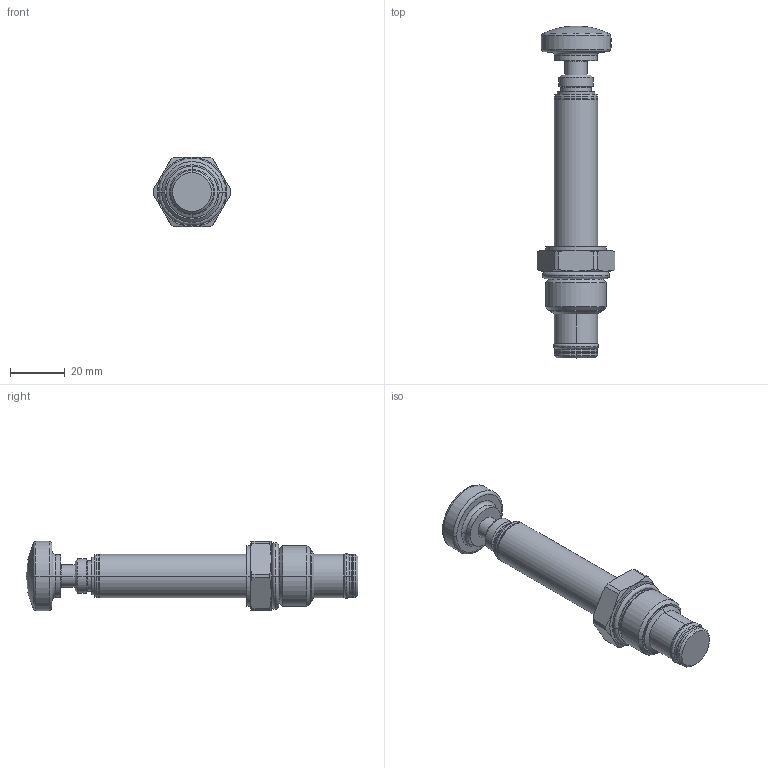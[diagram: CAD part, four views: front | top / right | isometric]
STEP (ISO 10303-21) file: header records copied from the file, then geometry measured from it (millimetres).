
FILE_DESCRIPTION((''),'2;1');
FILE_NAME('5029005_SW0002','2009-03-02T',('JCS'),(''),'PRO/ENGINEER BY PARAMETRIC TECHNOLOGY CORPORATION, 2008010','PRO/ENGINEER BY PARAMETRIC TECHNOLOGY CORPORATION, 2008010','');
FILE_SCHEMA(('CONFIG_CONTROL_DESIGN'));
Length unit declared in the file: inch
Products named in the file (1): 5029005_SW0002
Bounding box: 28.57 x 121.72 x 25.4 mm (x, y, z)
Volume: 30564.1 mm3; surface area: 9663 mm2
Topology: 3 solids, 4 shells, 159 faces, 343 edges, 199 vertices
Faces by surface type: cylinder 46, cone 42, plane 27, torus 26, revolution 16, sphere 2
Entity records: 4719 total; most frequent: CARTESIAN_POINT 1169, DIRECTION 799, ORIENTED_EDGE 682, AXIS2_PLACEMENT_3D 343, EDGE_CURVE 341, CIRCLE 200, VERTEX_POINT 199, EDGE_LOOP 172
